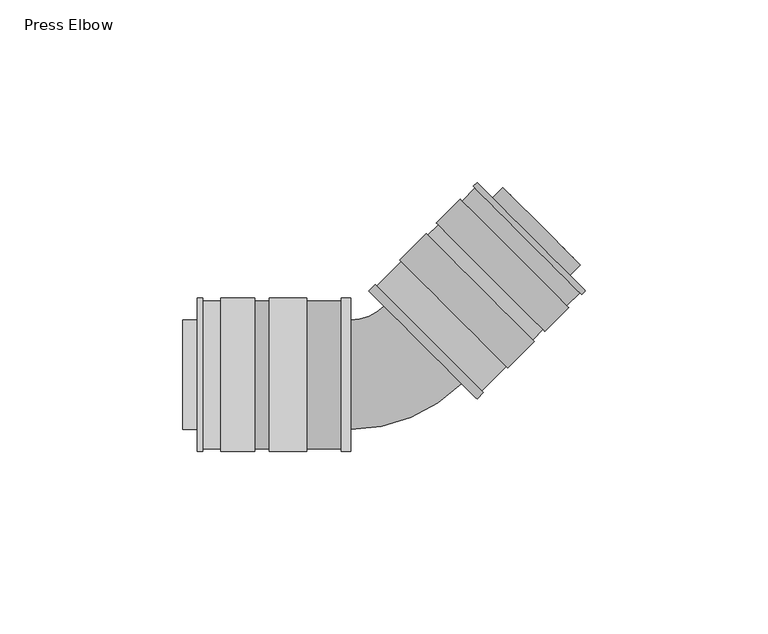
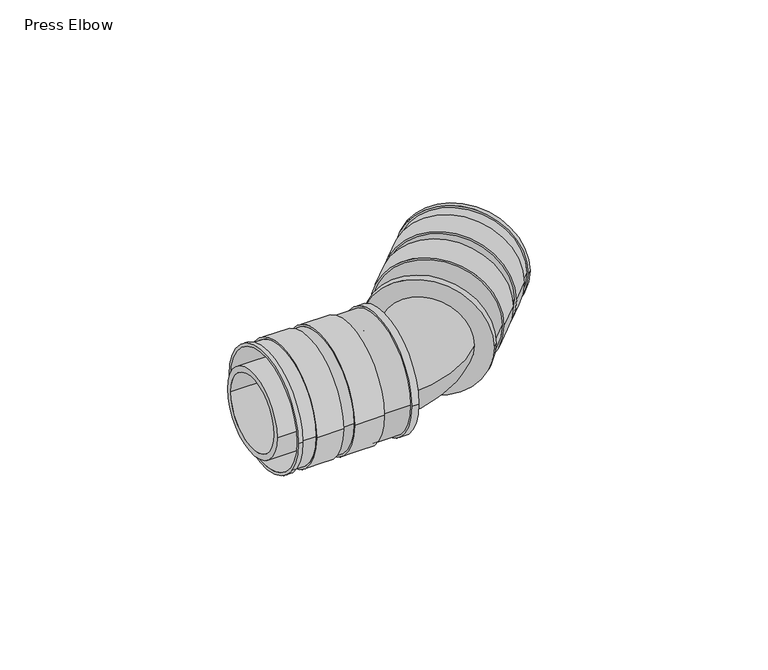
"""IFC4 building model written with IfcOpenShell, lengths in millimetres: pipe fitting geometry, Press Elbow : Superpipe Press Elbow."""

from ifc_helpers import new_model, si_unit, point, frame, origin, origin_2d, place, context, project, spatial, polyline, circle_curve, ellipse_curve, trimmed, segment, composite_curve, outline, extrude, source, transform, mapped, element, save
from ifc_brep_helpers import plane_surface, cylinder_surface, revolved_surface, advanced_brep


def press_elbow_f3a7adda(model_context):
    return source(origin(), model_context, "Body", "SolidModel", [
        advanced_brep(
        [(-4.3854906, 24.3230447, 0.0), (24.3230447, -4.3854906, 0.0), (24.1109127, -4.1733585, 0.0), (-4.1733585, 24.1109127, 0.0), (52.7487373, 23.0502525, 0.0), (23.0502525, 52.7487373, 0.0), (52.0416306, 23.7573593, 0.0), (23.7573593, 52.0416306, 0.0), (51.6880772, 21.9895924, 0.0), (21.9895924, 51.6880772, 0.0), (31.5355339, 1.8370491, 0.0), (1.8370491, 31.5355339, 0.0), (9.0848936, 38.7833784, 0.0), (38.7833784, 9.0848936, 0.0), (41.6118055, 11.9133207, 0.0), (11.9133207, 41.6118055, 0.0), (18.4540585, 48.1525433, 0.0), (48.1525433, 18.4540585, 0.0), (31.0405592, 2.3320238, 0.0), (2.3320238, 31.0405592, 0.0), (38.2884037, 9.5798684, 0.0), (9.5798684, 38.2884037, 0.0), (41.1168308, 12.4082955, 0.0), (12.4082955, 41.1168308, 0.0), (22.4845671, 51.1931024, 0.0), (51.1931024, 22.4845671, 0.0), (18.9490332, 47.6575685, 0.0), (47.6575685, 18.9490332, 0.0)],
        [
            (0, 1, circle_curve(frame((9.9687771, 9.9687771, 0.0), z_axis=(-0.7071067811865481, -0.707106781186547, 0.0), x_axis=(-0.707106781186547, 0.7071067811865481, 0.0)), 20.3)),
            (1, 0, circle_curve(frame((9.9687771, 9.9687771, 0.0), z_axis=(-0.7071067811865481, -0.707106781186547, 0.0), x_axis=(-0.707106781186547, 0.7071067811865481, 0.0)), 20.3)),
            (2, 3, circle_curve(frame((9.9687771, 9.9687771, 0.0), z_axis=(0.7071067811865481, 0.7071067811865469, 0.0), x_axis=(-0.7071067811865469, 0.7071067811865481, 0.0)), 20.0)),
            (3, 2, circle_curve(frame((9.9687771, 9.9687771, 0.0), z_axis=(0.7071067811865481, 0.7071067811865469, 0.0), x_axis=(-0.7071067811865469, 0.7071067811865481, 0.0)), 20.0)),
            (4, 5, circle_curve(frame((37.8994949, 37.8994949, 0.0), z_axis=(0.7071067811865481, 0.7071067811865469, 0.0), x_axis=(-0.7071067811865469, 0.7071067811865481, 0.0)), 21.0)),
            (5, 4, circle_curve(frame((37.8994949, 37.8994949, 0.0), z_axis=(0.7071067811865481, 0.7071067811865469, 0.0), x_axis=(-0.7071067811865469, 0.7071067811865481, 0.0)), 21.0)),
            (6, 7, circle_curve(frame((37.8994949, 37.8994949, 0.0), z_axis=(-0.7071067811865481, -0.7071067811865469, 0.0), x_axis=(-0.7071067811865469, 0.7071067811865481, 0.0)), 20.0)),
            (7, 6, circle_curve(frame((37.8994949, 37.8994949, 0.0), z_axis=(-0.7071067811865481, -0.7071067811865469, 0.0), x_axis=(-0.7071067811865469, 0.7071067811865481, 0.0)), 20.0)),
            (4, 8),
            (8, 9, circle_curve(frame((36.8388348, 36.8388348, 0.0), z_axis=(0.7071067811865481, 0.7071067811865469, 0.0), x_axis=(-0.7071067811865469, 0.7071067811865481, 0.0)), 21.0)),
            (9, 5),
            (10, 11, circle_curve(frame((16.6862915, 16.6862915, 0.0), z_axis=(0.7071067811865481, 0.7071067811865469, 0.0), x_axis=(-0.7071067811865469, 0.7071067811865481, 0.0)), 21.0)),
            (11, 12),
            (12, 13, circle_curve(frame((23.934136, 23.934136, 0.0), z_axis=(-0.7071067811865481, -0.7071067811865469, 0.0), x_axis=(-0.7071067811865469, 0.7071067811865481, 0.0)), 21.0)),
            (13, 10),
            (14, 15, circle_curve(frame((26.7625631, 26.7625631, 0.0), z_axis=(0.7071067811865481, 0.7071067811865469, 0.0), x_axis=(-0.7071067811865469, 0.7071067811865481, 0.0)), 21.0)),
            (15, 16),
            (16, 17, circle_curve(frame((33.3033009, 33.3033009, 0.0), z_axis=(-0.7071067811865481, -0.7071067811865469, 0.0), x_axis=(-0.7071067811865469, 0.7071067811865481, 0.0)), 21.0)),
            (17, 14),
            (9, 8, circle_curve(frame((36.8388348, 36.8388348, 0.0), z_axis=(0.7071067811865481, 0.7071067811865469, 0.0), x_axis=(-0.7071067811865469, 0.7071067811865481, 0.0)), 21.0)),
            (11, 10, circle_curve(frame((16.6862915, 16.6862915, 0.0), z_axis=(0.7071067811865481, 0.7071067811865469, 0.0), x_axis=(-0.7071067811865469, 0.7071067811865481, 0.0)), 21.0)),
            (13, 12, circle_curve(frame((23.934136, 23.934136, 0.0), z_axis=(-0.7071067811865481, -0.7071067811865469, 0.0), x_axis=(-0.7071067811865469, 0.7071067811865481, 0.0)), 21.0)),
            (15, 14, circle_curve(frame((26.7625631, 26.7625631, 0.0), z_axis=(0.7071067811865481, 0.7071067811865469, 0.0), x_axis=(-0.7071067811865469, 0.7071067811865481, 0.0)), 21.0)),
            (17, 16, circle_curve(frame((33.3033009, 33.3033009, 0.0), z_axis=(-0.7071067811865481, -0.7071067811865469, 0.0), x_axis=(-0.7071067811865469, 0.7071067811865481, 0.0)), 21.0)),
            (3, 7),
            (6, 2),
            (18, 19, circle_curve(frame((16.6862915, 16.6862915, 0.0), z_axis=(0.7071067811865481, 0.707106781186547, 0.0), x_axis=(-0.707106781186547, 0.7071067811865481, 0.0)), 20.3)),
            (19, 18, circle_curve(frame((16.6862915, 16.6862915, 0.0), z_axis=(0.7071067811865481, 0.707106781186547, 0.0), x_axis=(-0.707106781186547, 0.7071067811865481, 0.0)), 20.3)),
            (18, 1),
            (0, 19),
            (20, 21, circle_curve(frame((23.934136, 23.934136, 0.0), z_axis=(-0.7071067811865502, -0.7071067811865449, 0.0), x_axis=(-0.7071067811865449, 0.7071067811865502, 0.0)), 20.3)),
            (21, 20, circle_curve(frame((23.934136, 23.934136, 0.0), z_axis=(-0.7071067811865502, -0.7071067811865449, 0.0), x_axis=(-0.7071067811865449, 0.7071067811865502, 0.0)), 20.3)),
            (22, 23, circle_curve(frame((26.7625631, 26.7625631, 0.0), z_axis=(0.7071067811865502, 0.7071067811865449, 0.0), x_axis=(-0.7071067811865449, 0.7071067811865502, 0.0)), 20.3)),
            (23, 22, circle_curve(frame((26.7625631, 26.7625631, 0.0), z_axis=(0.7071067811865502, 0.7071067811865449, 0.0), x_axis=(-0.7071067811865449, 0.7071067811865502, 0.0)), 20.3)),
            (21, 23),
            (22, 20),
            (24, 25, circle_curve(frame((36.8388348, 36.8388348, 0.0), z_axis=(0.7071067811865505, 0.7071067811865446, 0.0), x_axis=(0.7071067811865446, -0.7071067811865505, 0.0)), 20.3)),
            (25, 24, circle_curve(frame((36.8388348, 36.8388348, 0.0), z_axis=(0.7071067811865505, 0.7071067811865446, 0.0), x_axis=(0.7071067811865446, -0.7071067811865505, 0.0)), 20.3)),
            (26, 27, circle_curve(frame((33.3033009, 33.3033009, 0.0), z_axis=(-0.7071067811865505, -0.7071067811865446, 0.0), x_axis=(0.7071067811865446, -0.7071067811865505, 0.0)), 20.3)),
            (27, 26, circle_curve(frame((33.3033009, 33.3033009, 0.0), z_axis=(-0.7071067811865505, -0.7071067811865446, 0.0), x_axis=(0.7071067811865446, -0.7071067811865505, 0.0)), 20.3)),
            (25, 27),
            (26, 24),
        ],
        [
            plane_surface(frame((9.9687771, 9.9687771, 0.0), z_axis=(-0.7071067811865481, -0.7071067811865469, 0.0), x_axis=(0.0, 0.0, 1.0))),
            plane_surface(frame((37.8994949, 37.8994949, 0.0), z_axis=(0.7071067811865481, 0.7071067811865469, 0.0), x_axis=(0.0, 0.0, 1.0))),
            cylinder_surface(frame((9.9687771, 9.9687771, 0.0), z_axis=(-0.7071067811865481, -0.7071067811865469, 0.0), x_axis=(-0.7071067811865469, 0.7071067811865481, 0.0)), 21.0),
            revolved_surface(polyline([(23.757359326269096, 52.041630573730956, 0.0), (-4.1733585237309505, 24.110912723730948, 0.0)]), (9.9687771, 9.9687771, 0.0), (0.7071067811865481, 0.7071067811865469, 0.0)),
            plane_surface(frame((16.6862915, 16.6862915, 0.0), z_axis=(-0.7071067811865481, -0.707106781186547, 0.0), x_axis=(0.0, 0.0, 1.0))),
            cylinder_surface(frame((9.9687771, 9.9687771, 0.0), z_axis=(0.7071067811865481, 0.707106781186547, 0.0), x_axis=(-0.707106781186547, 0.7071067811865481, 0.0)), 20.3),
            plane_surface(frame((23.934136, 23.934136, 0.0), z_axis=(0.7071067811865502, 0.7071067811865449, 0.0), x_axis=(0.0, 0.0, 1.0))),
            plane_surface(frame((26.7625631, 26.7625631, 0.0), z_axis=(-0.7071067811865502, -0.7071067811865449, 0.0), x_axis=(0.0, 0.0, 1.0))),
            cylinder_surface(frame((23.934136, 23.934136, 0.0), z_axis=(0.7071067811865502, 0.7071067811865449, 0.0), x_axis=(-0.7071067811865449, 0.7071067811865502, 0.0)), 20.3),
            plane_surface(frame((36.8388348, 36.8388348, 0.0), z_axis=(-0.7071067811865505, -0.7071067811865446, 0.0), x_axis=(0.0, 0.0, 1.0))),
            plane_surface(frame((33.3033009, 33.3033009, 0.0), z_axis=(0.7071067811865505, 0.7071067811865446, 0.0), x_axis=(0.0, 0.0, 1.0))),
            cylinder_surface(frame((36.8388348, 36.8388348, 0.0), z_axis=(-0.7071067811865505, -0.7071067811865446, 0.0), x_axis=(0.7071067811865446, -0.7071067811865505, 0.0)), 20.3),
        ],
        [
            (0, [[1, 2], [3, 4]]),
            (1, [[5, 6], [7, 8]]),
            (2, [[-5, 9, 10, 11]]),
            (2, [[12, 13, 14, 15]]),
            (2, [[16, 17, 18, 19]]),
            (2, [[-6, -11, 20, -9]]),
            (2, [[21, -15, 22, -13]]),
            (2, [[23, -19, 24, -17]]),
            (3, [[-4, 25, -7, 26]]),
            (3, [[-3, -26, -8, -25]]),
            (4, [[-12, -21], [27, 28]]),
            (5, [[-27, 29, -1, 30]]),
            (5, [[-28, -30, -2, -29]]),
            (6, [[-14, -22], [31, 32]]),
            (7, [[-16, -23], [33, 34]]),
            (8, [[-32, 35, -33, 36]]),
            (8, [[-31, -36, -34, -35]]),
            (9, [[-10, -20], [37, 38]]),
            (10, [[-18, -24], [39, 40]]),
            (11, [[-38, 41, -39, 42]]),
            (11, [[-37, -42, -40, -41]]),
        ],
    ),
        advanced_brep(
        [(-14.0979797, -20.3, 0.0), (-14.0979797, 20.3, 0.0), (-14.0979797, 20.0, 0.0), (-14.0979797, -20.0, 0.0), (-53.5979797, 21.0, 0.0), (-53.5979797, -21.0, 0.0), (-53.5979797, 20.0, 0.0), (-53.5979797, -20.0, 0.0), (-52.0979797, 21.0, 0.0), (-52.0979797, -21.0, 0.0), (-33.8479797, -21.0, 0.0), (-33.8479797, 21.0, 0.0), (-23.5979797, 21.0, 0.0), (-23.5979797, -21.0, 0.0), (-37.8479797, 21.0, 0.0), (-37.8479797, -21.0, 0.0), (-47.0979797, -21.0, 0.0), (-47.0979797, 21.0, 0.0), (-33.8479797, 20.3, 0.0), (-33.8479797, -20.3, 0.0), (-37.8479797, 20.3, 0.0), (-37.8479797, -20.3, 0.0), (-52.0979797, -20.3, 0.0), (-52.0979797, 20.3, 0.0), (-47.0979797, -20.3, 0.0), (-47.0979797, 20.3, 0.0), (-23.5979797, 20.3, 0.0), (-23.5979797, -20.3, 0.0)],
        [
            (0, 1, circle_curve(frame((-14.0979797, 0.0, 0.0), z_axis=(1.0, 0.0, 0.0), x_axis=(0.0, -1.0, 0.0)), 20.3)),
            (1, 0, circle_curve(frame((-14.0979797, 0.0, 0.0), z_axis=(1.0, 0.0, 0.0), x_axis=(0.0, -1.0, 0.0)), 20.3)),
            (2, 3, circle_curve(frame((-14.0979797, 0.0, 0.0), z_axis=(-1.0, 0.0, 0.0), x_axis=(0.0, -1.0, 0.0)), 20.0)),
            (3, 2, circle_curve(frame((-14.0979797, 0.0, 0.0), z_axis=(-1.0, 0.0, 0.0), x_axis=(0.0, -1.0, 0.0)), 20.0)),
            (4, 5, circle_curve(frame((-53.5979797, 0.0, 0.0), z_axis=(-1.0, 0.0, 0.0), x_axis=(0.0, -1.0, 0.0)), 21.0)),
            (5, 4, circle_curve(frame((-53.5979797, 0.0, 0.0), z_axis=(-1.0, 0.0, 0.0), x_axis=(0.0, -1.0, 0.0)), 21.0)),
            (6, 7, circle_curve(frame((-53.5979797, 0.0, 0.0), z_axis=(1.0, 0.0, 0.0), x_axis=(0.0, -1.0, 0.0)), 20.0)),
            (7, 6, circle_curve(frame((-53.5979797, 0.0, 0.0), z_axis=(1.0, 0.0, 0.0), x_axis=(0.0, -1.0, 0.0)), 20.0)),
            (3, 7),
            (6, 2),
            (4, 8),
            (8, 9, circle_curve(frame((-52.0979797, 0.0, 0.0), z_axis=(-1.0, 0.0, 0.0), x_axis=(0.0, -1.0, 0.0)), 21.0)),
            (9, 5),
            (10, 11, circle_curve(frame((-33.8479797, 0.0, 0.0), z_axis=(1.0, 0.0, 0.0), x_axis=(0.0, -1.0, 0.0)), 21.0)),
            (11, 12),
            (12, 13, circle_curve(frame((-23.5979797, 0.0, 0.0), z_axis=(-1.0, 0.0, 0.0), x_axis=(0.0, -1.0, 0.0)), 21.0)),
            (13, 10),
            (14, 15, circle_curve(frame((-37.8479797, 0.0, 0.0), z_axis=(-1.0, 0.0, 0.0), x_axis=(0.0, -1.0, 0.0)), 21.0)),
            (15, 16),
            (16, 17, circle_curve(frame((-47.0979797, 0.0, 0.0), z_axis=(1.0, 0.0, 0.0), x_axis=(0.0, -1.0, 0.0)), 21.0)),
            (17, 14),
            (9, 8, circle_curve(frame((-52.0979797, 0.0, 0.0), z_axis=(-1.0, 0.0, 0.0), x_axis=(0.0, -1.0, 0.0)), 21.0)),
            (11, 10, circle_curve(frame((-33.8479797, 0.0, 0.0), z_axis=(1.0, 0.0, 0.0), x_axis=(0.0, -1.0, 0.0)), 21.0)),
            (13, 12, circle_curve(frame((-23.5979797, 0.0, 0.0), z_axis=(-1.0, 0.0, 0.0), x_axis=(0.0, -1.0, 0.0)), 21.0)),
            (15, 14, circle_curve(frame((-37.8479797, 0.0, 0.0), z_axis=(-1.0, 0.0, 0.0), x_axis=(0.0, -1.0, 0.0)), 21.0)),
            (17, 16, circle_curve(frame((-47.0979797, 0.0, 0.0), z_axis=(1.0, 0.0, 0.0), x_axis=(0.0, -1.0, 0.0)), 21.0)),
            (18, 19, circle_curve(frame((-33.8479797, 0.0, 0.0), z_axis=(1.0, 0.0, 0.0), x_axis=(0.0, -1.0, 0.0)), 20.3)),
            (19, 18, circle_curve(frame((-33.8479797, 0.0, 0.0), z_axis=(1.0, 0.0, 0.0), x_axis=(0.0, -1.0, 0.0)), 20.3)),
            (20, 21, circle_curve(frame((-37.8479797, 0.0, 0.0), z_axis=(-1.0, 0.0, 0.0), x_axis=(0.0, -1.0, 0.0)), 20.3)),
            (21, 20, circle_curve(frame((-37.8479797, 0.0, 0.0), z_axis=(-1.0, 0.0, 0.0), x_axis=(0.0, -1.0, 0.0)), 20.3)),
            (19, 21),
            (20, 18),
            (22, 23, circle_curve(frame((-52.0979797, 0.0, 0.0), z_axis=(-1.0, 0.0, 0.0), x_axis=(0.0, 1.0, 0.0)), 20.3)),
            (23, 22, circle_curve(frame((-52.0979797, 0.0, 0.0), z_axis=(-1.0, 0.0, 0.0), x_axis=(0.0, 1.0, 0.0)), 20.3)),
            (24, 25, circle_curve(frame((-47.0979797, 0.0, 0.0), z_axis=(1.0, 0.0, 0.0), x_axis=(0.0, 1.0, 0.0)), 20.3)),
            (25, 24, circle_curve(frame((-47.0979797, 0.0, 0.0), z_axis=(1.0, 0.0, 0.0), x_axis=(0.0, 1.0, 0.0)), 20.3)),
            (23, 25),
            (24, 22),
            (26, 27, circle_curve(frame((-23.5979797, 0.0, 0.0), z_axis=(-1.0, 0.0, 0.0), x_axis=(0.0, -1.0, 0.0)), 20.3)),
            (27, 26, circle_curve(frame((-23.5979797, 0.0, 0.0), z_axis=(-1.0, 0.0, 0.0), x_axis=(0.0, -1.0, 0.0)), 20.3)),
            (26, 1),
            (0, 27),
        ],
        [
            plane_surface(frame((-14.0979797, 0.0, 0.0), z_axis=(1.0, 0.0, 0.0), x_axis=(0.0, 0.0, 1.0))),
            plane_surface(frame((-53.5979797, 0.0, 0.0), z_axis=(-1.0, 0.0, 0.0), x_axis=(0.0, 0.0, 1.0))),
            revolved_surface(polyline([(-53.597979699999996, -20.0, 0.0), (-14.0979797, -20.0, 0.0)]), (-14.0979797, 0.0, 0.0), (-1.0, 0.0, 0.0)),
            cylinder_surface(frame((-14.0979797, 0.0, 0.0), z_axis=(1.0, 0.0, 0.0), x_axis=(0.0, -1.0, 0.0)), 21.0),
            plane_surface(frame((-33.8479797, 0.0, 0.0), z_axis=(-1.0, 0.0, 0.0), x_axis=(0.0, 0.0, 1.0))),
            plane_surface(frame((-37.8479797, 0.0, 0.0), z_axis=(1.0, 0.0, 0.0), x_axis=(0.0, 0.0, 1.0))),
            cylinder_surface(frame((-33.8479797, 0.0, 0.0), z_axis=(-1.0, 0.0, 0.0), x_axis=(0.0, -1.0, 0.0)), 20.3),
            plane_surface(frame((-52.0979797, 0.0, 0.0), z_axis=(1.0, 0.0, 0.0), x_axis=(0.0, 0.0, 1.0))),
            plane_surface(frame((-47.0979797, 0.0, 0.0), z_axis=(-1.0, 0.0, 0.0), x_axis=(0.0, 0.0, 1.0))),
            cylinder_surface(frame((-52.0979797, 0.0, 0.0), z_axis=(1.0, 0.0, 0.0), x_axis=(0.0, 1.0, 0.0)), 20.3),
            plane_surface(frame((-23.5979797, 0.0, 0.0), z_axis=(1.0, 0.0, 0.0), x_axis=(0.0, 0.0, 1.0))),
            cylinder_surface(frame((-14.0979797, 0.0, 0.0), z_axis=(-1.0, 0.0, 0.0), x_axis=(0.0, -1.0, 0.0)), 20.3),
        ],
        [
            (0, [[1, 2], [3, 4]]),
            (1, [[5, 6], [7, 8]]),
            (2, [[-4, 9, -7, 10]]),
            (2, [[-3, -10, -8, -9]]),
            (3, [[-5, 11, 12, 13]]),
            (3, [[14, 15, 16, 17]]),
            (3, [[18, 19, 20, 21]]),
            (3, [[-6, -13, 22, -11]]),
            (3, [[23, -17, 24, -15]]),
            (3, [[25, -21, 26, -19]]),
            (4, [[-14, -23], [27, 28]]),
            (5, [[-18, -25], [29, 30]]),
            (6, [[-28, 31, -29, 32]]),
            (6, [[-27, -32, -30, -31]]),
            (7, [[-12, -22], [33, 34]]),
            (8, [[-20, -26], [35, 36]]),
            (9, [[-34, 37, -35, 38]]),
            (9, [[-33, -38, -36, -37]]),
            (10, [[-16, -24], [39, 40]]),
            (11, [[-39, 41, -1, 42]]),
            (11, [[-40, -42, -2, -41]]),
        ],
    ),
        extrude(outline(composite_curve([segment(trimmed(circle_curve(origin_2d(), 15.0), [point((0.0, 15.0))], [point((0.0, -15.0))], False, "CARTESIAN"), True, "CONTINUOUS"), segment(trimmed(circle_curve(origin_2d(), 15.0), [point((0.0, -15.0))], [point((0.0, 15.0))], False, "CARTESIAN"), True, "CONTINUOUS")], self_intersect=False), holes=[composite_curve([segment(trimmed(circle_curve(origin_2d(), 13.0), [point((0.0, 13.0))], [point((0.0, -13.0))], True, "CARTESIAN"), True, "CONTINUOUS"), segment(trimmed(circle_curve(origin_2d(), 13.0), [point((0.0, -13.0))], [point((0.0, 13.0))], True, "CARTESIAN"), True, "CONTINUOUS")], self_intersect=False)]), frame((9.9687771, 9.9687771, 0.0), z_axis=(0.7071067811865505, 0.7071067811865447, 0.0), x_axis=(0.0, 0.0, 1.0)), (0.0, 0.0, 1.0), 43.5),
        extrude(outline(composite_curve([segment(trimmed(circle_curve(origin_2d(), 21.0), [point((0.0, 21.0))], [point((0.0, -21.0))], False, "CARTESIAN"), True, "CONTINUOUS"), segment(trimmed(circle_curve(origin_2d(), 21.0), [point((0.0, -21.0))], [point((0.0, 21.0))], False, "CARTESIAN"), True, "CONTINUOUS")], self_intersect=False), holes=[composite_curve([segment(trimmed(circle_curve(origin_2d(), 13.0), [point((0.0, 13.0))], [point((0.0, -13.0))], True, "CARTESIAN"), True, "CONTINUOUS"), segment(trimmed(circle_curve(origin_2d(), 13.0), [point((0.0, -13.0))], [point((0.0, 13.0))], True, "CARTESIAN"), True, "CONTINUOUS")], self_intersect=False)]), frame((8.2010101, 8.2010101, 0.0), z_axis=(0.7071067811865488, 0.7071067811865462, 0.0), x_axis=(0.0, 0.0, 1.0)), (0.0, 0.0, 1.0), 2.5),
        extrude(outline(composite_curve([segment(trimmed(circle_curve(origin_2d(), 21.0), [point((21.0, 0.0))], [point((-21.0, 0.0))], False, "CARTESIAN"), True, "CONTINUOUS"), segment(trimmed(circle_curve(origin_2d(), 21.0), [point((-21.0, 0.0))], [point((21.0, 0.0))], False, "CARTESIAN"), True, "CONTINUOUS")], self_intersect=False), holes=[composite_curve([segment(trimmed(circle_curve(origin_2d(), 13.0), [point((13.0, 0.0))], [point((-13.0, 0.0))], True, "CARTESIAN"), True, "CONTINUOUS"), segment(trimmed(circle_curve(origin_2d(), 13.0), [point((-13.0, 0.0))], [point((13.0, 0.0))], True, "CARTESIAN"), True, "CONTINUOUS")], self_intersect=False)]), frame((-14.0979797, 0.0, 0.0), z_axis=(1.0, 0.0, 0.0), x_axis=(0.0, 1.0, 0.0)), (0.0, 0.0, 1.0), 2.5),
        extrude(outline(composite_curve([segment(trimmed(circle_curve(origin_2d(), 15.0), [point((15.0, 0.0))], [point((-15.0, 0.0))], False, "CARTESIAN"), True, "CONTINUOUS"), segment(trimmed(circle_curve(origin_2d(), 15.0), [point((-15.0, 0.0))], [point((15.0, 0.0))], False, "CARTESIAN"), True, "CONTINUOUS")], self_intersect=False), holes=[composite_curve([segment(trimmed(circle_curve(origin_2d(), 13.0), [point((13.0, 0.0))], [point((-13.0, 0.0))], True, "CARTESIAN"), True, "CONTINUOUS"), segment(trimmed(circle_curve(origin_2d(), 13.0), [point((-13.0, 0.0))], [point((13.0, 0.0))], True, "CARTESIAN"), True, "CONTINUOUS")], self_intersect=False)]), frame((-57.5979797, 0.0, 0.0), z_axis=(1.0, 0.0, 0.0), x_axis=(0.0, 1.0, 0.0)), (0.0, 0.0, 1.0), 43.5),
        advanced_brep(
        [(-11.5979797, -13.0, 0.0), (-11.5979797, 13.0, 0.0), (17.3933983, -0.991378, 0.0), (-0.991378, 17.3933983, 0.0)],
        [
            (0, 1, circle_curve(frame((-11.5979797, 0.0, 0.0), z_axis=(-1.0, 0.0, 0.0), x_axis=(0.0, 1.0, 0.0)), 13.0)),
            (1, 0, circle_curve(frame((-11.5979797, 0.0, 0.0), z_axis=(-1.0, 0.0, 0.0), x_axis=(0.0, 1.0, 0.0)), 13.0)),
            (2, 3, circle_curve(frame((8.2010101, 8.2010101, 0.0), z_axis=(0.7071067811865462, 0.7071067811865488, 0.0), x_axis=(-0.7071067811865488, 0.7071067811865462, 0.0)), 13.0)),
            (3, 2, circle_curve(frame((8.2010101, 8.2010101, 0.0), z_axis=(0.7071067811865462, 0.7071067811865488, 0.0), x_axis=(-0.7071067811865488, 0.7071067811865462, 0.0)), 13.0)),
            (3, 1, circle_curve(frame((-11.5979797, 28.0, 0.0), z_axis=(0.0, 0.0, -1.0), x_axis=(0.0, -1.0, 0.0)), 15.0)),
            (0, 2, circle_curve(frame((-11.5979797, 28.0, 0.0), z_axis=(0.0, 0.0, 1.0), x_axis=(0.0, -1.0, 0.0)), 41.0)),
        ],
        [
            plane_surface(frame((-11.5979797, 0.0, 0.0), z_axis=(-1.0, 0.0, 0.0), x_axis=(0.0, 0.0, 1.0))),
            plane_surface(frame((8.2010101, 8.2010101, 0.0), z_axis=(0.7071067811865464, 0.7071067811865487, 0.0), x_axis=(0.0, 0.0, 1.0))),
            revolved_surface(trimmed(ellipse_curve(frame((-11.5979797, 0.0, 0.0), z_axis=(-1.0, 0.0, 0.0), x_axis=(0.0, 1.0, 0.0)), 13.0, 13.0), [point((-11.5979797, -13.0, 0.0))], [point((-11.5979797, 13.0, 0.0))], True, "CARTESIAN"), (-11.5979797, 28.0, 0.0), (0.0, 0.0, 1.0)),
            revolved_surface(trimmed(ellipse_curve(frame((-11.5979797, 0.0, 0.0), z_axis=(-1.0, 0.0, 0.0), x_axis=(0.0, 1.0, 0.0)), 13.0, 13.0), [point((-11.5979797, 13.0, 0.0))], [point((-11.5979797, -13.0, 0.0))], True, "CARTESIAN"), (-11.5979797, 28.0, 0.0), (0.0, 0.0, 1.0)),
        ],
        [
            (0, [[1, 2]]),
            (1, [[3, 4]]),
            (2, [[5, -1, 6, -4]]),
            (3, [[-6, -2, -5, -3]]),
        ],
    ),
        advanced_brep(
        [(-11.5979797, -15.0, 0.0), (-11.5979797, 15.0, 0.0), (18.8076118, -2.4055916, 0.0), (-2.4055916, 18.8076118, 0.0)],
        [
            (0, 1, circle_curve(frame((-11.5979797, 0.0, 0.0), z_axis=(-1.0, 0.0, 0.0), x_axis=(0.0, 1.0, 0.0)), 15.0)),
            (1, 0, circle_curve(frame((-11.5979797, 0.0, 0.0), z_axis=(-1.0, 0.0, 0.0), x_axis=(0.0, 1.0, 0.0)), 15.0)),
            (2, 3, circle_curve(frame((8.2010101, 8.2010101, 0.0), z_axis=(0.7071067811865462, 0.7071067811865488, 0.0), x_axis=(-0.7071067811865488, 0.7071067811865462, 0.0)), 15.0)),
            (3, 2, circle_curve(frame((8.2010101, 8.2010101, 0.0), z_axis=(0.7071067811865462, 0.7071067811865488, 0.0), x_axis=(-0.7071067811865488, 0.7071067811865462, 0.0)), 15.0)),
            (3, 1, circle_curve(frame((-11.5979797, 28.0, 0.0), z_axis=(0.0, 0.0, -1.0), x_axis=(0.0, -1.0, 0.0)), 13.0)),
            (0, 2, circle_curve(frame((-11.5979797, 28.0, 0.0), z_axis=(0.0, 0.0, 1.0), x_axis=(0.0, -1.0, 0.0)), 43.0)),
        ],
        [
            plane_surface(frame((-11.5979797, 0.0, 0.0), z_axis=(-1.0, 0.0, 0.0), x_axis=(0.0, 0.0, 1.0))),
            plane_surface(frame((8.2010101, 8.2010101, 0.0), z_axis=(0.7071067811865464, 0.7071067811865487, 0.0), x_axis=(0.0, 0.0, 1.0))),
            revolved_surface(trimmed(ellipse_curve(frame((-11.5979797, 0.0, 0.0), z_axis=(-1.0, 0.0, 0.0), x_axis=(0.0, 1.0, 0.0)), 15.0, 15.0), [point((-11.5979797, -15.0, 0.0))], [point((-11.5979797, 15.0, 0.0))], True, "CARTESIAN"), (-11.5979797, 28.0, 0.0), (0.0, 0.0, 1.0)),
            revolved_surface(trimmed(ellipse_curve(frame((-11.5979797, 0.0, 0.0), z_axis=(-1.0, 0.0, 0.0), x_axis=(0.0, 1.0, 0.0)), 15.0, 15.0), [point((-11.5979797, 15.0, 0.0))], [point((-11.5979797, -15.0, 0.0))], True, "CARTESIAN"), (-11.5979797, 28.0, 0.0), (0.0, 0.0, 1.0)),
        ],
        [
            (0, [[1, 2]]),
            (1, [[3, 4]]),
            (2, [[5, -1, 6, -4]]),
            (3, [[-6, -2, -5, -3]]),
        ],
    ),
    ])


if __name__ == "__main__":
    model = new_model("IFC4")
    model_context = context("Model", 3, world=origin())
    ifc_project = project(units=[si_unit("LENGTHUNIT", "METRE", prefix="MILLI")], contexts=[model_context])
    site = spatial("IfcSite", under=ifc_project)
    building = spatial("IfcBuilding", under=site)
    placement = place(None, origin())
    press_elbow_shape = press_elbow_f3a7adda(model_context)
    element("IfcPipeFitting", 1, ObjectType="Press Elbow : Superpipe Press Elbow", at=placement, inside=building, context=model_context, shape_type="MappedRepresentation", body=[
        mapped(press_elbow_shape, transform((0.0, 0.0, 0.0), x_axis=(1.0, 0.0, 0.0), y_axis=(0.0, 1.0, 0.0), z_axis=(0.0, 0.0, 1.0))),
    ])
    save(model, "model.ifc")
